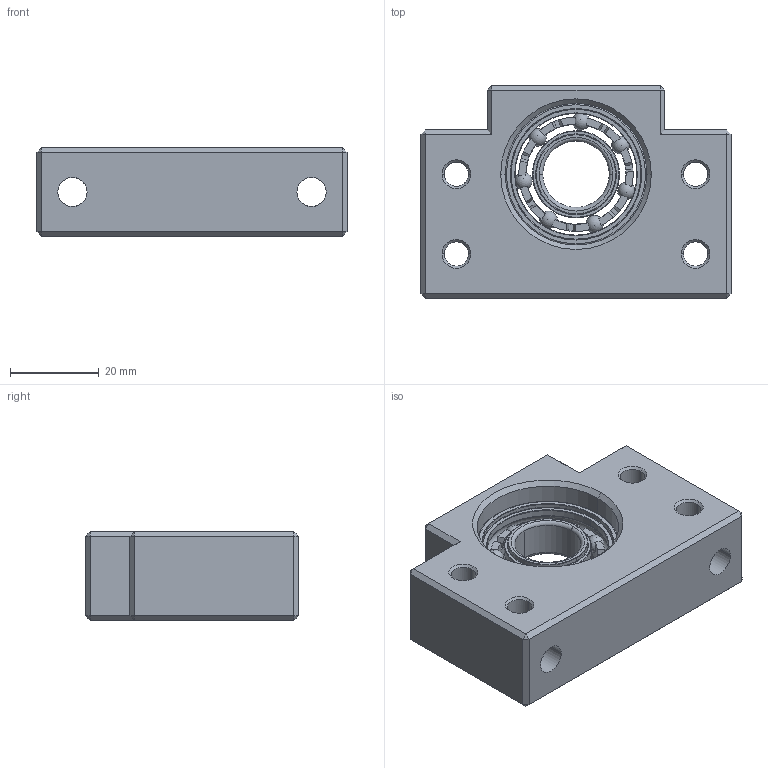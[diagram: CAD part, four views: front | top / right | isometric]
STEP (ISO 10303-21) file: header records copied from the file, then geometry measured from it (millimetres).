
FILE_DESCRIPTION (( 'STEP AP214' ), '1' );
FILE_NAME ('2.4002 Kuularuuvin tukilaakeri BF15.STEP', '2024-05-06T12:33:48', ( '' ), ( '' ), 'SwSTEP 2.0', 'SolidWorks 2024', '' );
FILE_SCHEMA (( 'AUTOMOTIVE_DESIGN' ));
Length unit declared in the file: millimetre
Products named in the file (1): 2.4002 Kuularuuvin tukilaakeri BF15
Bounding box: 70 x 48 x 20 mm (x, y, z)
Volume: 42898.5 mm3; surface area: 17513.9 mm2
Topology: 11 solids, 11 shells, 254 faces, 634 edges, 393 vertices
Faces by surface type: plane 104, cylinder 66, torus 46, cone 24, sphere 14
Entity records: 10377 total; most frequent: CARTESIAN_POINT 3267, DIRECTION 1299, ORIENTED_EDGE 1198, EDGE_CURVE 599, AXIS2_PLACEMENT_3D 523, VERTEX_POINT 372, EDGE_LOOP 287, CIRCLE 268
